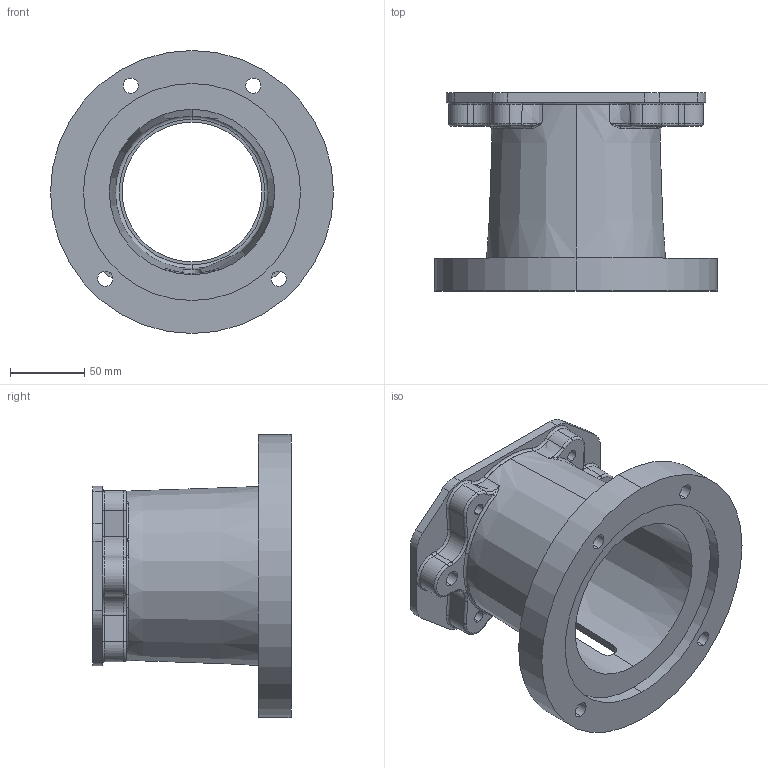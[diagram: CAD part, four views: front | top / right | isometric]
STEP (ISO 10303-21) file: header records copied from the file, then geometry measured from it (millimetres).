
FILE_DESCRIPTION (( 'STEP AP203' ), '1' );
FILE_NAME ('E57552100M.STEP', '2014-11-03T15:53:48', ( '' ), ( '' ), 'SwSTEP 2.0', 'SolidWorks 2014', '' );
FILE_SCHEMA (( 'CONFIG_CONTROL_DESIGN' ));
Length unit declared in the file: inch
Products named in the file (1): E57552100M
Bounding box: 190.5 x 133.35 x 190.5 mm (x, y, z)
Volume: 663314.7 mm3; surface area: 164082.5 mm2
Topology: 1 solids, 1 shells, 154 faces, 404 edges, 246 vertices
Faces by surface type: cylinder 64, torus 44, plane 26, bspline 16, cone 4
Entity records: 6013 total; most frequent: CARTESIAN_POINT 2085, DIRECTION 864, ORIENTED_EDGE 800, EDGE_CURVE 400, AXIS2_PLACEMENT_3D 373, VERTEX_POINT 246, CIRCLE 234, EDGE_LOOP 176
